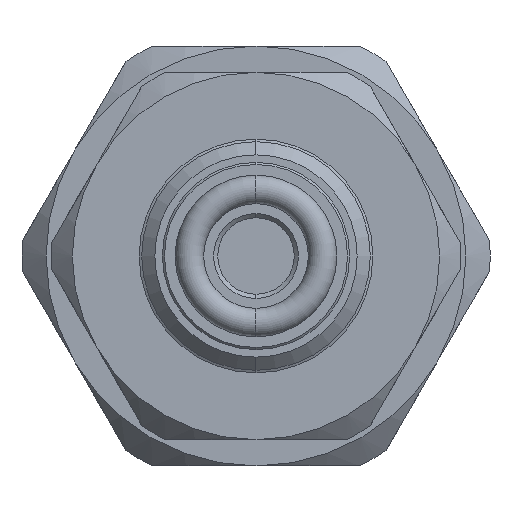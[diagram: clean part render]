
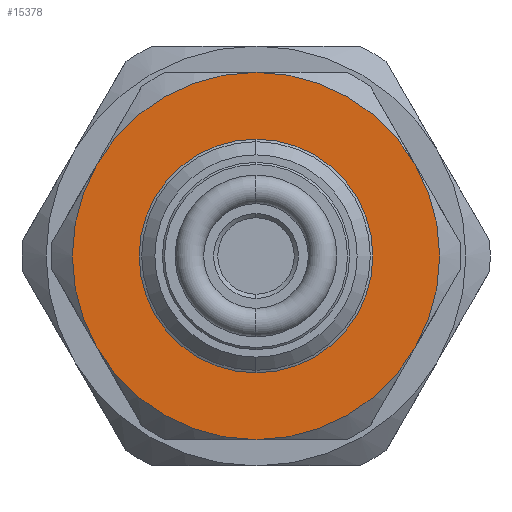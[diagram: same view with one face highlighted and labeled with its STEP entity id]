
A CAD part, left-side view. The second image highlights one B-rep face of the part: STEP entity #15378.
In plain terms, the highlighted planar face has unit normal (-1, 0, 0).
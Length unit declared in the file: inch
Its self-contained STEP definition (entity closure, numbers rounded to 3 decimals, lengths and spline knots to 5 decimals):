
#1779 = VERTEX_POINT ( 'NONE', #7561 ) ;
#1780 = VERTEX_POINT ( 'NONE', #7562 ) ;
#1933 = VERTEX_POINT ( 'NONE', #7715 ) ;
#1947 = VERTEX_POINT ( 'NONE', #7729 ) ;
#1949 = VERTEX_POINT ( 'NONE', #7731 ) ;
#1950 = VERTEX_POINT ( 'NONE', #7732 ) ;
#1951 = VERTEX_POINT ( 'NONE', #7733 ) ;
#1952 = VERTEX_POINT ( 'NONE', #7734 ) ;
#5098 = CIRCLE ( 'NONE', #5103, 0.271 ) ;
#5103 = AXIS2_PLACEMENT_3D ( 'NONE', #8269, #8270, #8271 ) ;
#7561 = CARTESIAN_POINT ( 'NONE',  ( 0.6175, 0., 0.271 ) ) ;
#7562 = CARTESIAN_POINT ( 'NONE',  ( 0.6175, 0., -0.271 ) ) ;
#7715 = CARTESIAN_POINT ( 'NONE',  ( 0.6175, -0.37889, 0.21875 ) ) ;
#7729 = CARTESIAN_POINT ( 'NONE',  ( 0.6175, 0., 0.4375 ) ) ;
#7731 = CARTESIAN_POINT ( 'NONE',  ( 0.6175, 0.37889, 0.21875 ) ) ;
#7732 = CARTESIAN_POINT ( 'NONE',  ( 0.6175, 0.37889, -0.21875 ) ) ;
#7733 = CARTESIAN_POINT ( 'NONE',  ( 0.6175, 0., -0.4375 ) ) ;
#7734 = CARTESIAN_POINT ( 'NONE',  ( 0.6175, -0.37889, -0.21875 ) ) ;
#8269 = CARTESIAN_POINT ( 'NONE',  ( 0.6175, 0., 0. ) ) ;
#8270 = DIRECTION ( 'NONE',  ( 1., 0., 0. ) ) ;
#8271 = DIRECTION ( 'NONE',  ( 0., 0., 1. ) ) ;
#9585 = CIRCLE ( 'NONE', #9724, 0.4375 ) ;
#9717 = CIRCLE ( 'NONE', #9720, 0.271 ) ;
#9719 = CIRCLE ( 'NONE', #9722, 0.4375 ) ;
#9720 = AXIS2_PLACEMENT_3D ( 'NONE', #10176, #10177, #10178 ) ;
#9722 = AXIS2_PLACEMENT_3D ( 'NONE', #10179, #10180, #10181 ) ;
#9723 = CIRCLE ( 'NONE', #9726, 0.4375 ) ;
#9724 = AXIS2_PLACEMENT_3D ( 'NONE', #10182, #10183, #10184 ) ;
#9725 = CIRCLE ( 'NONE', #9728, 0.4375 ) ;
#9726 = AXIS2_PLACEMENT_3D ( 'NONE', #10185, #10186, #10187 ) ;
#9727 = CIRCLE ( 'NONE', #9730, 0.4375 ) ;
#9728 = AXIS2_PLACEMENT_3D ( 'NONE', #10188, #10189, #10190 ) ;
#9729 = CIRCLE ( 'NONE', #9732, 0.4375 ) ;
#9730 = AXIS2_PLACEMENT_3D ( 'NONE', #10192, #10193, #10194 ) ;
#9732 = AXIS2_PLACEMENT_3D ( 'NONE', #10197, #10198, #10199 ) ;
#10176 = CARTESIAN_POINT ( 'NONE',  ( 0.6175, 0., 0. ) ) ;
#10177 = DIRECTION ( 'NONE',  ( 1., 0., 0. ) ) ;
#10178 = DIRECTION ( 'NONE',  ( 0., 0., 1. ) ) ;
#10179 = CARTESIAN_POINT ( 'NONE',  ( 0.6175, 0., 0. ) ) ;
#10180 = DIRECTION ( 'NONE',  ( -1., 0., 0. ) ) ;
#10181 = DIRECTION ( 'NONE',  ( 0., 0., 1. ) ) ;
#10182 = CARTESIAN_POINT ( 'NONE',  ( 0.6175, 0., 0. ) ) ;
#10183 = DIRECTION ( 'NONE',  ( -1., 0., 0. ) ) ;
#10184 = DIRECTION ( 'NONE',  ( 0., 0., 1. ) ) ;
#10185 = CARTESIAN_POINT ( 'NONE',  ( 0.6175, 0., 0. ) ) ;
#10186 = DIRECTION ( 'NONE',  ( -1., 0., 0. ) ) ;
#10187 = DIRECTION ( 'NONE',  ( 0., 0., 1. ) ) ;
#10188 = CARTESIAN_POINT ( 'NONE',  ( 0.6175, 0., 0. ) ) ;
#10189 = DIRECTION ( 'NONE',  ( -1., 0., 0. ) ) ;
#10190 = DIRECTION ( 'NONE',  ( 0., 0., 1. ) ) ;
#10192 = CARTESIAN_POINT ( 'NONE',  ( 0.6175, 0., 0. ) ) ;
#10193 = DIRECTION ( 'NONE',  ( -1., 0., 0. ) ) ;
#10194 = DIRECTION ( 'NONE',  ( 0., 0., 1. ) ) ;
#10197 = CARTESIAN_POINT ( 'NONE',  ( 0.6175, 0., 0. ) ) ;
#10198 = DIRECTION ( 'NONE',  ( -1., 0., 0. ) ) ;
#10199 = DIRECTION ( 'NONE',  ( 0., 0., 1. ) ) ;
#10724 = CARTESIAN_POINT ( 'NONE',  ( 0.6175, 0., 0. ) ) ;
#10725 = FACE_BOUND ( 'NONE', #15772, .T. ) ;
#10728 = FACE_OUTER_BOUND ( 'NONE', #15746, .T. ) ;
#10729 = PLANE ( 'NONE',  #11083 ) ;
#10731 = DIRECTION ( 'NONE',  ( -1., 0., 0. ) ) ;
#10732 = DIRECTION ( 'NONE',  ( 0., 0., 1. ) ) ;
#10865 = EDGE_CURVE ( 'NONE', #1779, #1780, #5098, .T. ) ;
#11083 = AXIS2_PLACEMENT_3D ( 'NONE', #10724, #10731, #10732 ) ;
#15264 = EDGE_CURVE ( 'NONE', #1780, #1779, #9717, .T. ) ;
#15265 = EDGE_CURVE ( 'NONE', #1933, #1947, #9719, .T. ) ;
#15266 = EDGE_CURVE ( 'NONE', #1947, #1949, #9585, .T. ) ;
#15267 = EDGE_CURVE ( 'NONE', #1949, #1950, #9723, .T. ) ;
#15268 = EDGE_CURVE ( 'NONE', #1950, #1951, #9725, .T. ) ;
#15269 = EDGE_CURVE ( 'NONE', #1951, #1952, #9727, .T. ) ;
#15270 = EDGE_CURVE ( 'NONE', #1952, #1933, #9729, .T. ) ;
#15378 = ADVANCED_FACE ( 'NONE', ( #10725, #10728 ), #10729, .T. ) ;
#15607 = ORIENTED_EDGE ( 'NONE', *, *, #10865, .T. ) ;
#15608 = ORIENTED_EDGE ( 'NONE', *, *, #15264, .T. ) ;
#15609 = ORIENTED_EDGE ( 'NONE', *, *, #15265, .T. ) ;
#15610 = ORIENTED_EDGE ( 'NONE', *, *, #15266, .T. ) ;
#15611 = ORIENTED_EDGE ( 'NONE', *, *, #15267, .T. ) ;
#15612 = ORIENTED_EDGE ( 'NONE', *, *, #15268, .T. ) ;
#15613 = ORIENTED_EDGE ( 'NONE', *, *, #15269, .T. ) ;
#15614 = ORIENTED_EDGE ( 'NONE', *, *, #15270, .T. ) ;
#15746 = EDGE_LOOP ( 'NONE', ( #15609, #15610, #15611, #15612, #15613, #15614 ) ) ;
#15772 = EDGE_LOOP ( 'NONE', ( #15607, #15608 ) ) ;
